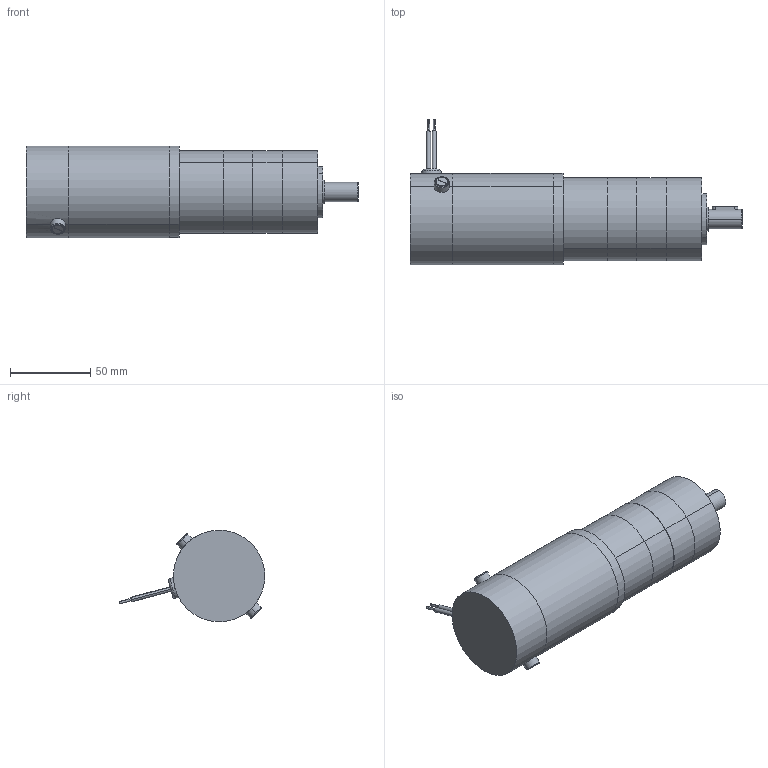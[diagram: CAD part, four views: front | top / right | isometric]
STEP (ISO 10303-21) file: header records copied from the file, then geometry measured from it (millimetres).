
FILE_DESCRIPTION (( 'STEP AP203' ), '1' );
FILE_NAME ('d22376gp2.step', '2018-12-07T19:16:02', ( '' ), ( '' ), 'SwSTEP 2.0', 'SolidWorks 2017', '' );
FILE_SCHEMA (( 'CONFIG_CONTROL_DESIGN' ));
Length unit declared in the file: inch
Products named in the file (1): d22376gp2
Bounding box: 207.25 x 90.76 x 56.93 mm (x, y, z)
Volume: 430130.3 mm3; surface area: 77271.9 mm2
Topology: 17 solids, 17 shells, 330 faces, 701 edges, 434 vertices
Faces by surface type: cylinder 138, plane 133, cone 49, torus 6, sphere 4
Entity records: 9141 total; most frequent: CARTESIAN_POINT 1710, DIRECTION 1686, ORIENTED_EDGE 1370, EDGE_CURVE 685, AXIS2_PLACEMENT_3D 680, VERTEX_POINT 434, EDGE_LOOP 395, CIRCLE 349
